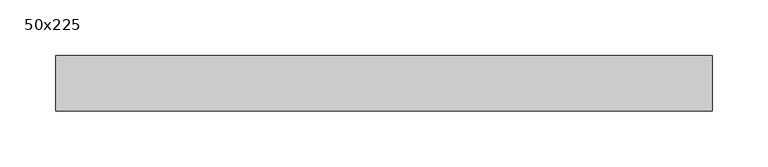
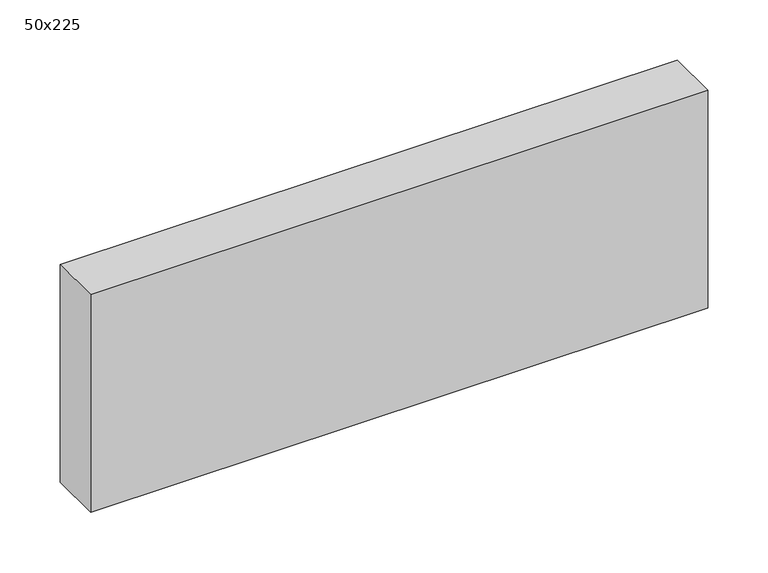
"""IFC4 building model written with IfcOpenShell, lengths in millimetres: beam geometry, Graded Timber : 50x225."""

from ifc_helpers import new_model, si_unit, frame, origin, place, context, project, spatial, polyline, outline, extrude, source, transform, mapped, element, save


def beam_50x225_0095a40e(model_context):
    return source(origin(), model_context, "Body", "SweptSolid", [
        extrude(outline(polyline([(318.5, 25.0), (318.5, -25.0), (-270.5, -25.0), (-270.5, 25.0), (318.5, 25.0)])), frame((0.0, 0.0, -110.0), z_axis=(0.0, 0.0, 1.0), x_axis=(1.0, 0.0, 0.0)), (0.0, 0.0, 1.0), 220.0),
    ])


if __name__ == "__main__":
    model = new_model("IFC4")
    model_context = context("Model", 3, world=origin())
    ifc_project = project(units=[si_unit("LENGTHUNIT", "METRE", prefix="MILLI")], contexts=[model_context])
    site = spatial("IfcSite", under=ifc_project)
    building = spatial("IfcBuilding", under=site)
    placement = place(None, origin())
    beam_50x225_shape = beam_50x225_0095a40e(model_context)
    element("IfcBeam", 1, ObjectType="Graded Timber : 50x225", at=placement, inside=building, context=model_context, shape_type="MappedRepresentation", body=[
        mapped(beam_50x225_shape, transform((0.0, 0.0, 0.0), x_axis=(1.0, 0.0, 0.0), y_axis=(0.0, 1.0, 0.0), z_axis=(0.0, 0.0, 1.0))),
    ])
    save(model, "model.ifc")
